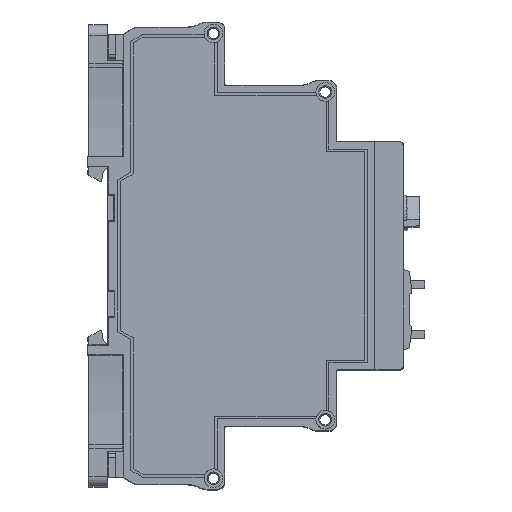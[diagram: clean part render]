
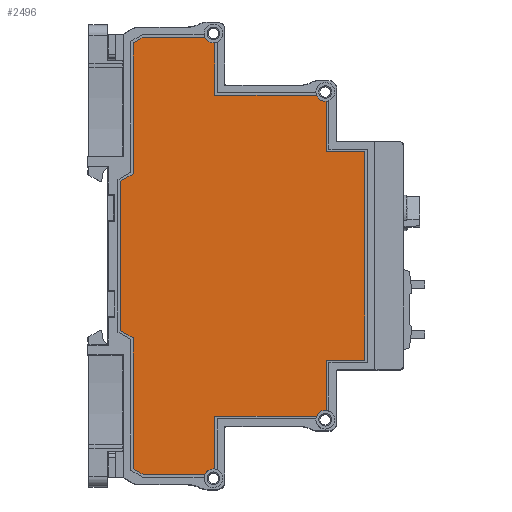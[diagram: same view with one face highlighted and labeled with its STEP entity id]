
A CAD part, top view. The second image highlights one B-rep face of the part: STEP entity #2496.
In plain terms, the highlighted planar face has unit normal (0, 0, 1) as drawn and (1, 0, 0) by its records, which use the part's own axes.
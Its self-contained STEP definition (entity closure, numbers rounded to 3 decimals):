
#2496=ADVANCED_FACE('',(#38149),#38151,.T.);
#38149=FACE_BOUND('',#38150,.T.);
#38150=EDGE_LOOP('',(#66148,#66149,#66150,#66151,#66152,#66153,#66154,#66155,#66156,
#66157,#66158,#66159,#66160,#66161,#66162,#66163,#66164,#66165,#66166,#66167,#66168,
#66169));
#38151=PLANE('',#38152);
#38152=AXIS2_PLACEMENT_3D('',#38153,#38154,#38155);
#38153=CARTESIAN_POINT('',(17.5,0.,0.));
#38154=DIRECTION('',(1.,0.,0.));
#38155=DIRECTION('',(0.,0.,-1.));
#66148=ORIENTED_EDGE('',*,*,#92390,.F.);
#66149=ORIENTED_EDGE('',*,*,#92391,.T.);
#66150=ORIENTED_EDGE('',*,*,#91778,.F.);
#66151=ORIENTED_EDGE('',*,*,#92392,.T.);
#66152=ORIENTED_EDGE('',*,*,#92393,.T.);
#66153=ORIENTED_EDGE('',*,*,#92394,.T.);
#66154=ORIENTED_EDGE('',*,*,#92395,.T.);
#66155=ORIENTED_EDGE('',*,*,#92396,.T.);
#66156=ORIENTED_EDGE('',*,*,#91762,.F.);
#66157=ORIENTED_EDGE('',*,*,#92397,.F.);
#66158=ORIENTED_EDGE('',*,*,#92398,.T.);
#66159=ORIENTED_EDGE('',*,*,#91772,.F.);
#66160=ORIENTED_EDGE('',*,*,#92399,.T.);
#66161=ORIENTED_EDGE('',*,*,#92400,.F.);
#66162=ORIENTED_EDGE('',*,*,#92401,.T.);
#66163=ORIENTED_EDGE('',*,*,#92402,.T.);
#66164=ORIENTED_EDGE('',*,*,#92403,.T.);
#66165=ORIENTED_EDGE('',*,*,#92404,.T.);
#66166=ORIENTED_EDGE('',*,*,#92405,.T.);
#66167=ORIENTED_EDGE('',*,*,#92406,.F.);
#66168=ORIENTED_EDGE('',*,*,#92407,.T.);
#66169=ORIENTED_EDGE('',*,*,#91788,.F.);
#91762=EDGE_CURVE('',#103159,#103144,#103161,.T.);
#91772=EDGE_CURVE('',#103179,#103164,#103181,.T.);
#91778=EDGE_CURVE('',#103191,#103193,#103194,.T.);
#91788=EDGE_CURVE('',#103211,#103213,#103214,.T.);
#92390=EDGE_CURVE('',#104311,#103211,#104312,.T.);
#92391=EDGE_CURVE('',#104311,#103193,#104313,.T.);
#92392=EDGE_CURVE('',#103191,#104314,#104315,.T.);
#92393=EDGE_CURVE('',#104314,#104316,#104317,.T.);
#92394=EDGE_CURVE('',#104316,#104318,#104319,.T.);
#92395=EDGE_CURVE('',#104318,#104320,#104321,.T.);
#92396=EDGE_CURVE('',#104320,#103144,#104322,.T.);
#92397=EDGE_CURVE('',#104323,#103159,#104324,.T.);
#92398=EDGE_CURVE('',#104323,#103164,#104325,.T.);
#92399=EDGE_CURVE('',#103179,#104326,#104327,.T.);
#92400=EDGE_CURVE('',#104328,#104326,#104329,.T.);
#92401=EDGE_CURVE('',#104328,#104330,#104331,.T.);
#92402=EDGE_CURVE('',#104330,#104332,#104333,.T.);
#92403=EDGE_CURVE('',#104332,#104334,#104335,.T.);
#92404=EDGE_CURVE('',#104334,#104336,#104337,.T.);
#92405=EDGE_CURVE('',#104336,#104338,#104339,.T.);
#92406=EDGE_CURVE('',#104340,#104338,#104341,.T.);
#92407=EDGE_CURVE('',#104340,#103213,#104342,.T.);
#103144=VERTEX_POINT('',#122639);
#103159=VERTEX_POINT('',#122672);
#103161=CIRCLE('',#122676,1.85);
#103164=VERTEX_POINT('',#122685);
#103179=VERTEX_POINT('',#122718);
#103181=CIRCLE('',#122722,1.85);
#103191=VERTEX_POINT('',#122746);
#103193=VERTEX_POINT('',#122750);
#103194=CIRCLE('',#122751,1.85);
#103211=VERTEX_POINT('',#122792);
#103213=VERTEX_POINT('',#122796);
#103214=CIRCLE('',#122797,1.85);
#104311=VERTEX_POINT('',#125124);
#104312=LINE('',#125125,#125126);
#104313=LINE('',#125128,#125129);
#104314=VERTEX_POINT('',#125131);
#104315=LINE('',#125132,#125133);
#104316=VERTEX_POINT('',#125135);
#104317=LINE('',#125136,#125137);
#104318=VERTEX_POINT('',#125139);
#104319=LINE('',#125140,#125141);
#104320=VERTEX_POINT('',#125143);
#104321=LINE('',#125144,#125145);
#104322=LINE('',#125147,#125148);
#104323=VERTEX_POINT('',#125150);
#104324=LINE('',#125151,#125152);
#104325=LINE('',#125154,#125155);
#104326=VERTEX_POINT('',#125157);
#104327=LINE('',#125158,#125159);
#104328=VERTEX_POINT('',#125161);
#104329=LINE('',#125162,#125163);
#104330=VERTEX_POINT('',#125165);
#104331=LINE('',#125166,#125167);
#104332=VERTEX_POINT('',#125169);
#104333=LINE('',#125170,#125171);
#104334=VERTEX_POINT('',#125173);
#104335=LINE('',#125174,#125175);
#104336=VERTEX_POINT('',#125177);
#104337=LINE('',#125178,#125179);
#104338=VERTEX_POINT('',#125181);
#104339=LINE('',#125182,#125183);
#104340=VERTEX_POINT('',#125185);
#104341=LINE('',#125186,#125187);
#104342=LINE('',#125189,#125190);
#122639=CARTESIAN_POINT('',(17.5,-30.541,38.985));
#122672=CARTESIAN_POINT('',(17.5,-31.7,37.015));
#122676=AXIS2_PLACEMENT_3D('',#122677,#122678,#122679);
#122677=CARTESIAN_POINT('',(17.5,-32.375,38.738));
#122678=DIRECTION('',(1.,0.,0.));
#122679=DIRECTION('',(0.,0.365,-0.931));
#122685=CARTESIAN_POINT('',(17.5,-42.103,16.897));
#122718=CARTESIAN_POINT('',(17.5,-43.2,14.953));
#122722=AXIS2_PLACEMENT_3D('',#122723,#122724,#122725);
#122723=CARTESIAN_POINT('',(17.5,-43.937,16.65));
#122724=DIRECTION('',(1.,0.,0.));
#122725=DIRECTION('',(0.,0.398,-0.917));
#122746=CARTESIAN_POINT('',(17.5,30.541,38.985));
#122750=CARTESIAN_POINT('',(17.5,31.7,37.015));
#122751=AXIS2_PLACEMENT_3D('',#122752,#122753,#122754);
#122752=CARTESIAN_POINT('',(17.5,32.375,38.738));
#122753=DIRECTION('',(1.,0.,0.));
#122754=DIRECTION('',(0.,-0.991,0.134));
#122792=CARTESIAN_POINT('',(17.5,42.103,16.897));
#122796=CARTESIAN_POINT('',(17.5,43.2,14.953));
#122797=AXIS2_PLACEMENT_3D('',#122798,#122799,#122800);
#122798=CARTESIAN_POINT('',(17.5,43.937,16.65));
#122799=DIRECTION('',(1.,0.,0.));
#122800=DIRECTION('',(0.,-0.991,0.134));
#125124=CARTESIAN_POINT('',(17.5,31.7,16.897));
#125125=CARTESIAN_POINT('',(17.5,31.7,16.897));
#125126=VECTOR('',#125127,1.);
#125127=DIRECTION('',(0.,1.,0.));
#125128=CARTESIAN_POINT('',(17.5,31.7,16.897));
#125129=VECTOR('',#125130,1.);
#125130=DIRECTION('',(0.,0.,1.));
#125131=CARTESIAN_POINT('',(17.5,20.6,38.985));
#125132=CARTESIAN_POINT('',(17.5,30.541,38.985));
#125133=VECTOR('',#125134,1.);
#125134=DIRECTION('',(0.,-1.,0.));
#125135=CARTESIAN_POINT('',(17.5,20.6,46.53));
#125136=CARTESIAN_POINT('',(17.5,20.6,38.985));
#125137=VECTOR('',#125138,1.);
#125138=DIRECTION('',(0.,0.,1.));
#125139=CARTESIAN_POINT('',(17.5,-20.6,46.53));
#125140=CARTESIAN_POINT('',(17.5,20.6,46.53));
#125141=VECTOR('',#125142,1.);
#125142=DIRECTION('',(0.,-1.,0.));
#125143=CARTESIAN_POINT('',(17.5,-20.6,38.985));
#125144=CARTESIAN_POINT('',(17.5,-20.6,46.53));
#125145=VECTOR('',#125146,1.);
#125146=DIRECTION('',(0.,0.,-1.));
#125147=CARTESIAN_POINT('',(17.5,-20.6,38.985));
#125148=VECTOR('',#125149,1.);
#125149=DIRECTION('',(0.,-1.,0.));
#125150=CARTESIAN_POINT('',(17.5,-31.7,16.897));
#125151=CARTESIAN_POINT('',(17.5,-31.7,16.897));
#125152=VECTOR('',#125153,1.);
#125153=DIRECTION('',(0.,0.,1.));
#125154=CARTESIAN_POINT('',(17.5,-31.7,16.897));
#125155=VECTOR('',#125156,1.);
#125156=DIRECTION('',(0.,-1.,0.));
#125157=CARTESIAN_POINT('',(17.5,-43.2,2.761));
#125158=CARTESIAN_POINT('',(17.5,-43.2,14.953));
#125159=VECTOR('',#125160,1.);
#125160=DIRECTION('',(0.,0.,-1.));
#125161=CARTESIAN_POINT('',(17.5,-42.068,0.8));
#125162=CARTESIAN_POINT('',(17.5,-42.068,0.8));
#125163=VECTOR('',#125164,1.);
#125164=DIRECTION('',(0.,-0.5,0.866));
#125165=CARTESIAN_POINT('',(17.5,-16.211,0.8));
#125166=CARTESIAN_POINT('',(17.5,-42.068,0.8));
#125167=VECTOR('',#125168,1.);
#125168=DIRECTION('',(0.,1.,0.));
#125169=CARTESIAN_POINT('',(17.5,-14.768,-1.7));
#125170=CARTESIAN_POINT('',(17.5,-16.211,0.8));
#125171=VECTOR('',#125172,1.);
#125172=DIRECTION('',(0.,0.5,-0.866));
#125173=CARTESIAN_POINT('',(17.5,14.768,-1.7));
#125174=CARTESIAN_POINT('',(17.5,-14.768,-1.7));
#125175=VECTOR('',#125176,1.);
#125176=DIRECTION('',(0.,1.,0.));
#125177=CARTESIAN_POINT('',(17.5,16.211,0.8));
#125178=CARTESIAN_POINT('',(17.5,14.768,-1.7));
#125179=VECTOR('',#125180,1.);
#125180=DIRECTION('',(0.,0.5,0.866));
#125181=CARTESIAN_POINT('',(17.5,42.068,0.8));
#125182=CARTESIAN_POINT('',(17.5,16.211,0.8));
#125183=VECTOR('',#125184,1.);
#125184=DIRECTION('',(0.,1.,0.));
#125185=CARTESIAN_POINT('',(17.5,43.2,2.761));
#125186=CARTESIAN_POINT('',(17.5,43.2,2.761));
#125187=VECTOR('',#125188,1.);
#125188=DIRECTION('',(0.,-0.5,-0.866));
#125189=CARTESIAN_POINT('',(17.5,43.2,2.761));
#125190=VECTOR('',#125191,1.);
#125191=DIRECTION('',(0.,0.,1.));
